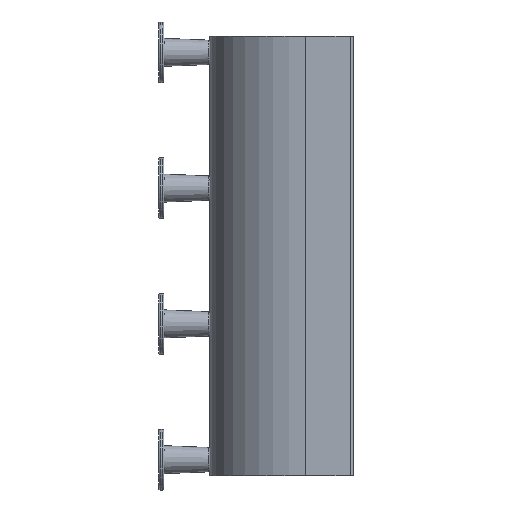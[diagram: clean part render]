
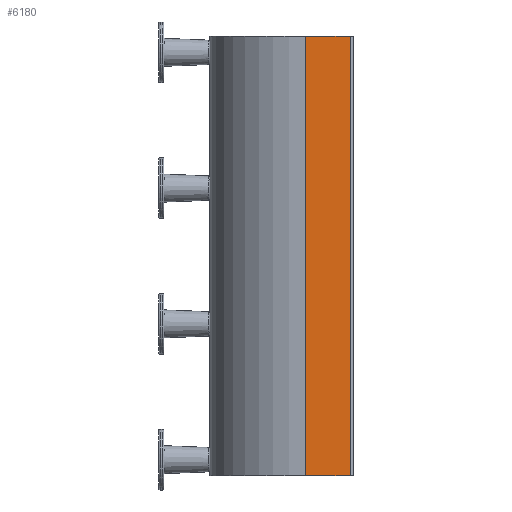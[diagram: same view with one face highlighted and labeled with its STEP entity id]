
A CAD part, left-side view. The second image highlights one B-rep face of the part: STEP entity #6180.
In plain terms, the highlighted planar face has unit normal (-1, 0, 0) as drawn and (0, 0, 1) by its records, which use the part's own axes.
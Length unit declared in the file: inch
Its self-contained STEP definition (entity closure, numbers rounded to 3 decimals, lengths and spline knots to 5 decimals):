
#387 = VECTOR ( 'NONE', #4689, 39.37008 ) ;
#552 = CARTESIAN_POINT ( 'NONE',  ( 6.875, 0.1, 0. ) ) ;
#1234 = PLANE ( 'NONE',  #1877 ) ;
#1310 = CARTESIAN_POINT ( 'NONE',  ( 6.875, 1.5, 0. ) ) ;
#1358 = DIRECTION ( 'NONE',  ( -1., 0., 0. ) ) ;
#1362 = ORIENTED_EDGE ( 'NONE', *, *, #4915, .F. ) ;
#1478 = EDGE_CURVE ( 'NONE', #6462, #6653, #8124, .T. ) ;
#1877 = AXIS2_PLACEMENT_3D ( 'NONE', #7398, #3364, #8057 ) ;
#2417 = VERTEX_POINT ( 'NONE', #2705 ) ;
#2458 = CARTESIAN_POINT ( 'NONE',  ( 6.875, 1.5, 0. ) ) ;
#2472 = CARTESIAN_POINT ( 'NONE',  ( 6.875, 0., 0. ) ) ;
#2593 = VECTOR ( 'NONE', #5154, 39.37008 ) ;
#2705 = CARTESIAN_POINT ( 'NONE',  ( -6.875, 0.1, 0. ) ) ;
#2743 = VECTOR ( 'NONE', #1358, 39.37008 ) ;
#3364 = DIRECTION ( 'NONE',  ( 0., 0., -1. ) ) ;
#3719 = EDGE_LOOP ( 'NONE', ( #8573, #6848, #1362, #4705 ) ) ;
#4071 = VECTOR ( 'NONE', #8094, 39.37008 ) ;
#4096 = LINE ( 'NONE', #552, #387 ) ;
#4217 = CARTESIAN_POINT ( 'NONE',  ( 6.875, 0.1, 0. ) ) ;
#4689 = DIRECTION ( 'NONE',  ( 1., 0., 0. ) ) ;
#4705 = ORIENTED_EDGE ( 'NONE', *, *, #1478, .T. ) ;
#4707 = CARTESIAN_POINT ( 'NONE',  ( -6.875, 1.5, 0. ) ) ;
#4915 = EDGE_CURVE ( 'NONE', #6462, #7581, #8183, .T. ) ;
#5154 = DIRECTION ( 'NONE',  ( 0., -1., 0. ) ) ;
#5846 = LINE ( 'NONE', #7474, #4071 ) ;
#6169 = EDGE_CURVE ( 'NONE', #2417, #7581, #4096, .T. ) ;
#6180 = ADVANCED_FACE ( 'NONE', ( #7242 ), #1234, .F. ) ;
#6462 = VERTEX_POINT ( 'NONE', #2458 ) ;
#6653 = VERTEX_POINT ( 'NONE', #4707 ) ;
#6848 = ORIENTED_EDGE ( 'NONE', *, *, #6169, .T. ) ;
#7242 = FACE_OUTER_BOUND ( 'NONE', #3719, .T. ) ;
#7398 = CARTESIAN_POINT ( 'NONE',  ( 6.875, 0., 0. ) ) ;
#7474 = CARTESIAN_POINT ( 'NONE',  ( -6.875, 0., 0. ) ) ;
#7581 = VERTEX_POINT ( 'NONE', #4217 ) ;
#8057 = DIRECTION ( 'NONE',  ( -1., 0., 0. ) ) ;
#8094 = DIRECTION ( 'NONE',  ( 0., -1., 0. ) ) ;
#8124 = LINE ( 'NONE', #1310, #2743 ) ;
#8183 = LINE ( 'NONE', #2472, #2593 ) ;
#8573 = ORIENTED_EDGE ( 'NONE', *, *, #8721, .T. ) ;
#8721 = EDGE_CURVE ( 'NONE', #6653, #2417, #5846, .T. ) ;
